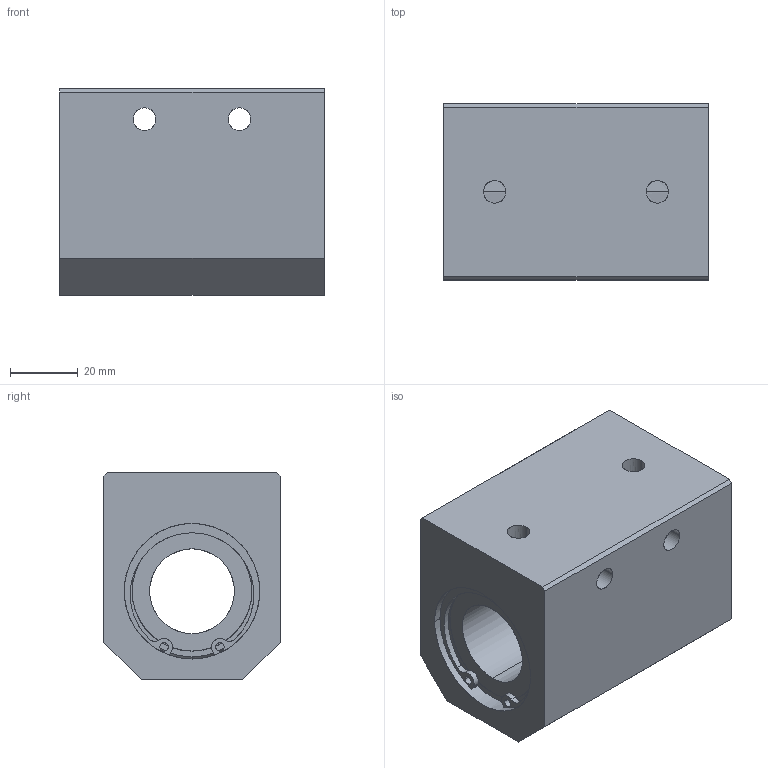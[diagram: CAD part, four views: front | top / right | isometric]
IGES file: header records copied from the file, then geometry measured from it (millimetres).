
Global section: file name: No Iges File Name specified; native system: AutoDesk Inventor R10; preprocessor: AutoDesk Inventor Iges Exporter R10; author: No Author specified; organization: No Organization specified; date: 20101216.152000; units: millimetre
Bounding box: 78 x 52 x 61 mm (x, y, z)
Surface area: 33528.8 mm2 (no closed solid volume)
Topology: 0 solids, 0 shells, 102 faces, 828 edges, 828 vertices
Faces by surface type: bspline 102
